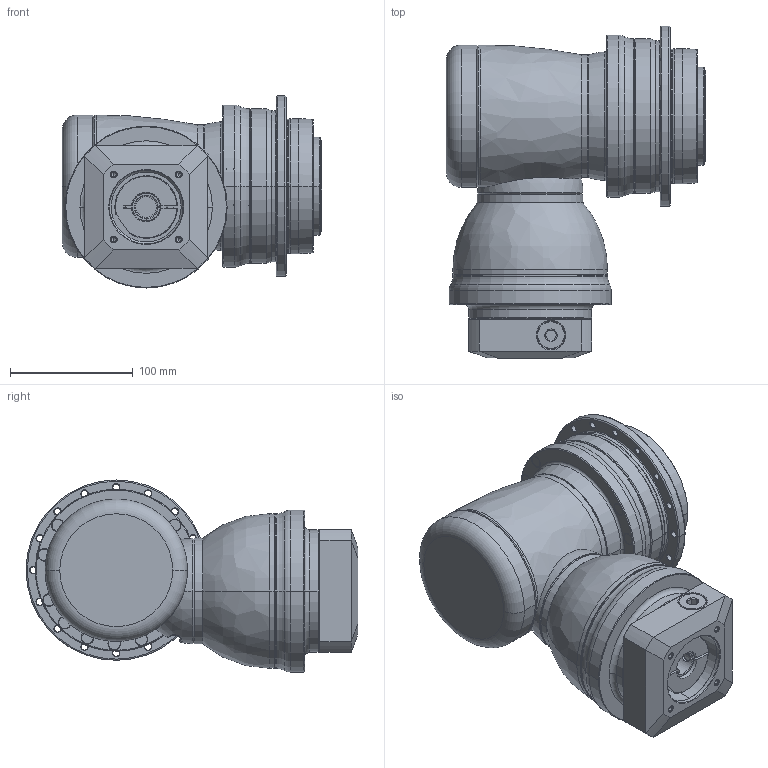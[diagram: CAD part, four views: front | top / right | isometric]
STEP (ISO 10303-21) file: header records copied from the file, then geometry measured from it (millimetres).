
FILE_DESCRIPTION((''),'2;1');
FILE_NAME('APK110_2ST_19-P0409410201_ASM','2018-05-10T',('D00080'),(''),'PRO/ENGINEER BY PARAMETRIC TECHNOLOGY CORPORATION, 2008170','PRO/ENGINEER BY PARAMETRIC TECHNOLOGY CORPORATION, 2008170','');
FILE_SCHEMA(('CONFIG_CONTROL_DESIGN'));
Length unit declared in the file: millimetre
Products named in the file (13): P1008400002; P1802410011; P0278401003; P0359401103; P1211400001; P1315400001; P1007401001; P1318410001; P0503400008; P0129400001; P0409410201; 21711416017; APK110_2ST_19-P0409410201_ASM
Assembly tree (12 placements, depth 2):
  APK110_2ST_19-P0409410201_ASM
    P1008400002
    P1802410011
    P0278401003
    P0359401103
    P1211400001
    P1315400001
    P1007401001
    P1318410001
    P0503400008
    P0129400001
    P0409410201
    21711416017
Bounding box: 211.3 x 270.5 x 156.5 mm (x, y, z)
Volume: 3549812.5 mm3; surface area: 419643 mm2
Topology: 13 solids, 34 shells, 816 faces, 1863 edges, 1139 vertices
Faces by surface type: cylinder 341, cone 202, plane 157, torus 84, bspline 30, sphere 2
Entity records: 25743 total; most frequent: CARTESIAN_POINT 6640, DIRECTION 4406, ORIENTED_EDGE 3568, AXIS2_PLACEMENT_3D 1901, EDGE_CURVE 1827, VERTEX_POINT 1139, CIRCLE 1080, EDGE_LOOP 964
